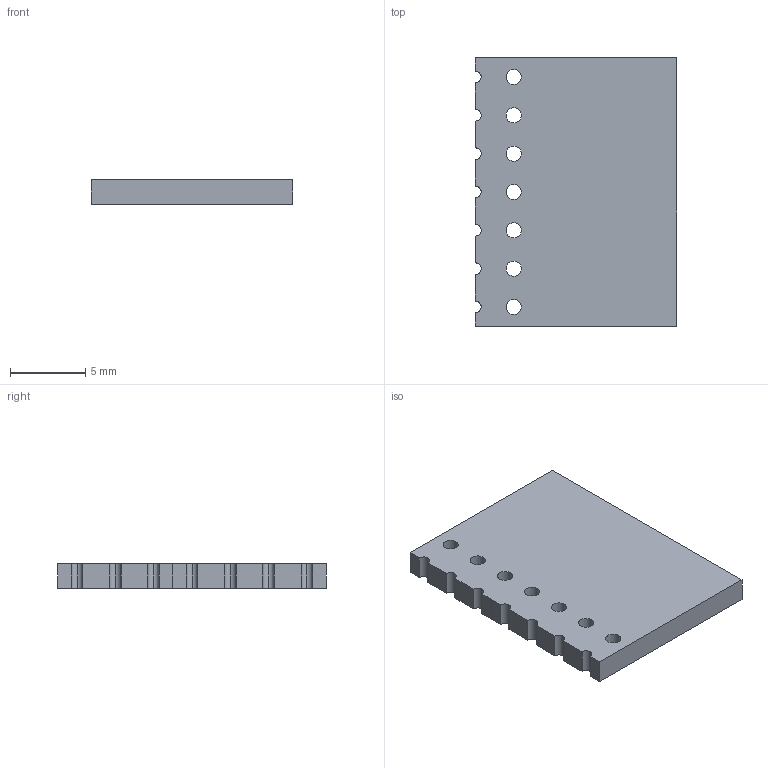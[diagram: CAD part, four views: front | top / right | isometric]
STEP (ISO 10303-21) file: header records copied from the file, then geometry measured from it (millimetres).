
FILE_DESCRIPTION(('KiCad electronic assembly'),'2;1');
FILE_NAME('18_Mesure_Courant.step','2023-05-03T15:07:36',('Pcbnew'),( 'Kicad'),'Open CASCADE STEP processor 7.6','KiCad to STEP converter' ,'Unknown');
FILE_SCHEMA(('AUTOMOTIVE_DESIGN { 1 0 10303 214 1 1 1 1 }'));
Length unit declared in the file: millimetre
Products named in the file (2): 18_Mesure_Courant 1; 18_Mesure_Courant PCB
Assembly tree (1 placements, depth 2):
  18_Mesure_Courant 1
    18_Mesure_Courant PCB
Bounding box: 13.34 x 17.78 x 1.6 mm (x, y, z)
Volume: 368 mm3; surface area: 599.6 mm2
Topology: 1 solids, 1 shells, 35 faces, 99 edges, 66 vertices
Faces by surface type: cylinder 21, plane 14
Full cylindrical faces by diameter (mm): 1 x7
Entity records: 2489 total; most frequent: CARTESIAN_POINT 428, DIRECTION 385, ORIENTED_EDGE 198, PCURVE 198, DEFINITIONAL_REPRESENTATION 198, LINE 185, VECTOR 185, EDGE_CURVE 99
